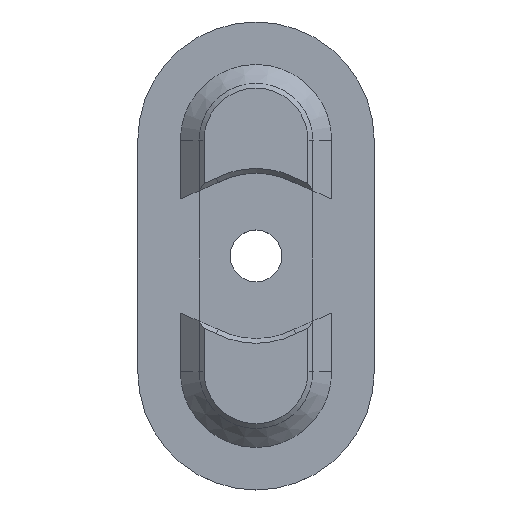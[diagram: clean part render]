
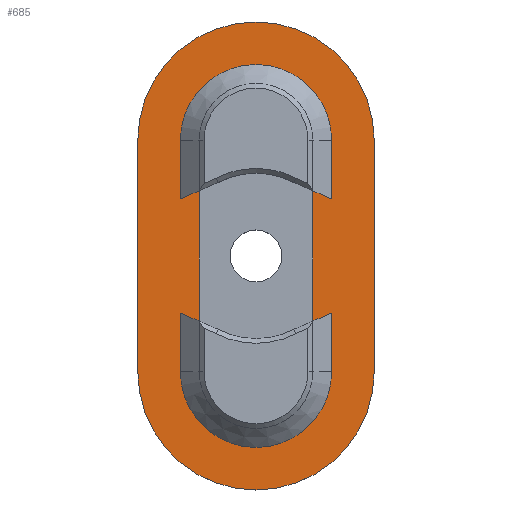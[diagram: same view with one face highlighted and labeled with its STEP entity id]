
A CAD part, top view. The second image highlights one B-rep face of the part: STEP entity #685.
In plain terms, the highlighted planar face has unit normal (0, 0, 1).
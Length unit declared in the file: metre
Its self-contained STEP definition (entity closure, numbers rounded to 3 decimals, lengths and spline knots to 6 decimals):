
#29=CIRCLE('',#741,0.005);
#30=CIRCLE('',#742,0.005);
#31=CIRCLE('',#743,0.0032);
#32=CIRCLE('',#744,0.0032);
#56=ORIENTED_EDGE('',*,*,#256,.T.);
#57=ORIENTED_EDGE('',*,*,#257,.T.);
#58=ORIENTED_EDGE('',*,*,#258,.F.);
#59=ORIENTED_EDGE('',*,*,#259,.T.);
#60=ORIENTED_EDGE('',*,*,#260,.T.);
#61=ORIENTED_EDGE('',*,*,#261,.T.);
#62=ORIENTED_EDGE('',*,*,#255,.F.);
#63=ORIENTED_EDGE('',*,*,#262,.T.);
#64=ORIENTED_EDGE('',*,*,#263,.T.);
#65=ORIENTED_EDGE('',*,*,#264,.T.);
#66=ORIENTED_EDGE('',*,*,#265,.T.);
#67=ORIENTED_EDGE('',*,*,#266,.F.);
#68=ORIENTED_EDGE('',*,*,#267,.T.);
#69=ORIENTED_EDGE('',*,*,#268,.T.);
#70=ORIENTED_EDGE('',*,*,#269,.T.);
#71=ORIENTED_EDGE('',*,*,#270,.T.);
#255=EDGE_CURVE('',#355,#350,#417,.T.);
#256=EDGE_CURVE('',#356,#357,#418,.T.);
#257=EDGE_CURVE('',#357,#358,#29,.T.);
#258=EDGE_CURVE('',#359,#358,#419,.T.);
#259=EDGE_CURVE('',#359,#356,#30,.T.);
#260=EDGE_CURVE('',#360,#361,#420,.T.);
#261=EDGE_CURVE('',#361,#350,#421,.T.);
#262=EDGE_CURVE('',#355,#362,#422,.T.);
#263=EDGE_CURVE('',#362,#363,#31,.F.);
#264=EDGE_CURVE('',#363,#364,#423,.T.);
#265=EDGE_CURVE('',#364,#365,#424,.T.);
#266=EDGE_CURVE('',#366,#365,#425,.T.);
#267=EDGE_CURVE('',#366,#367,#426,.T.);
#268=EDGE_CURVE('',#367,#368,#427,.T.);
#269=EDGE_CURVE('',#368,#369,#32,.F.);
#270=EDGE_CURVE('',#369,#360,#428,.T.);
#350=VERTEX_POINT('',#1007);
#355=VERTEX_POINT('',#1017);
#356=VERTEX_POINT('',#1021);
#357=VERTEX_POINT('',#1022);
#358=VERTEX_POINT('',#1024);
#359=VERTEX_POINT('',#1026);
#360=VERTEX_POINT('',#1029);
#361=VERTEX_POINT('',#1030);
#362=VERTEX_POINT('',#1033);
#363=VERTEX_POINT('',#1035);
#364=VERTEX_POINT('',#1037);
#365=VERTEX_POINT('',#1039);
#366=VERTEX_POINT('',#1041);
#367=VERTEX_POINT('',#1043);
#368=VERTEX_POINT('',#1045);
#369=VERTEX_POINT('',#1047);
#417=LINE('',#1018,#493);
#418=LINE('',#1020,#494);
#419=LINE('',#1025,#495);
#420=LINE('',#1028,#496);
#421=LINE('',#1031,#497);
#422=LINE('',#1032,#498);
#423=LINE('',#1036,#499);
#424=LINE('',#1038,#500);
#425=LINE('',#1040,#501);
#426=LINE('',#1042,#502);
#427=LINE('',#1044,#503);
#428=LINE('',#1048,#504);
#493=VECTOR('',#811,1.);
#494=VECTOR('',#814,1.);
#495=VECTOR('',#817,1.);
#496=VECTOR('',#820,1.);
#497=VECTOR('',#821,1.);
#498=VECTOR('',#822,1.);
#499=VECTOR('',#825,1.);
#500=VECTOR('',#826,1.);
#501=VECTOR('',#827,1.);
#502=VECTOR('',#828,1.);
#503=VECTOR('',#829,1.);
#504=VECTOR('',#832,1.);
#564=EDGE_LOOP('',(#56,#57,#58,#59));
#565=EDGE_LOOP('',(#60,#61,#62,#63,#64,#65,#66,#67,#68,#69,#70,#71));
#610=FACE_BOUND('',#564,.T.);
#611=FACE_BOUND('',#565,.T.);
#656=PLANE('',#740);
#685=ADVANCED_FACE('',(#610,#611),#656,.T.);
#740=AXIS2_PLACEMENT_3D('',#1019,#812,#813);
#741=AXIS2_PLACEMENT_3D('',#1023,#815,#816);
#742=AXIS2_PLACEMENT_3D('',#1027,#818,#819);
#743=AXIS2_PLACEMENT_3D('',#1034,#823,#824);
#744=AXIS2_PLACEMENT_3D('',#1046,#830,#831);
#811=DIRECTION('',(0.916,0.401,0.));
#812=DIRECTION('',(0.,0.,1.));
#813=DIRECTION('',(1.,0.,0.));
#814=DIRECTION('',(0.,-1.,0.));
#815=DIRECTION('',(0.,0.,1.));
#816=DIRECTION('',(1.,0.,0.));
#817=DIRECTION('',(0.,-1.,0.));
#818=DIRECTION('',(0.,0.,1.));
#819=DIRECTION('',(1.,0.,0.));
#820=DIRECTION('',(0.916,-0.401,0.));
#821=DIRECTION('',(0.,1.,0.));
#822=DIRECTION('',(0.,1.,0.));
#823=DIRECTION('',(0.,0.,1.));
#824=DIRECTION('',(1.,0.,0.));
#825=DIRECTION('',(0.,-1.,0.));
#826=DIRECTION('',(-0.916,0.401,0.));
#827=DIRECTION('',(0.,1.,0.));
#828=DIRECTION('',(0.916,0.401,0.));
#829=DIRECTION('',(0.,-1.,0.));
#830=DIRECTION('',(0.,0.,1.));
#831=DIRECTION('',(1.,0.,0.));
#832=DIRECTION('',(0.,1.,0.));
#1007=CARTESIAN_POINT('',(-0.0024,0.002763,0.));
#1017=CARTESIAN_POINT('',(-0.0032,0.002412,0.));
#1018=CARTESIAN_POINT('',(-0.002001,0.002937,0.));
#1019=CARTESIAN_POINT('',(0.,0.,0.));
#1020=CARTESIAN_POINT('',(-0.005,0.,0.));
#1021=CARTESIAN_POINT('',(-0.005,0.0049,0.));
#1022=CARTESIAN_POINT('',(-0.005,-0.0049,0.));
#1023=CARTESIAN_POINT('',(0.,-0.0049,0.));
#1024=CARTESIAN_POINT('',(0.005,-0.0049,0.));
#1025=CARTESIAN_POINT('',(0.005,0.,0.));
#1026=CARTESIAN_POINT('',(0.005,0.0049,0.));
#1027=CARTESIAN_POINT('',(0.,0.0049,0.));
#1028=CARTESIAN_POINT('',(-0.002001,-0.002937,0.));
#1029=CARTESIAN_POINT('',(-0.0032,-0.002412,0.));
#1030=CARTESIAN_POINT('',(-0.0024,-0.002763,0.));
#1031=CARTESIAN_POINT('',(-0.0024,0.,0.));
#1032=CARTESIAN_POINT('',(-0.0032,0.,0.));
#1033=CARTESIAN_POINT('',(-0.0032,0.0049,0.));
#1034=CARTESIAN_POINT('',(0.,0.0049,0.));
#1035=CARTESIAN_POINT('',(0.0032,0.0049,0.));
#1036=CARTESIAN_POINT('',(0.0032,0.002763,0.));
#1037=CARTESIAN_POINT('',(0.0032,0.002412,0.));
#1038=CARTESIAN_POINT('',(0.002001,0.002937,0.));
#1039=CARTESIAN_POINT('',(0.0024,0.002763,0.));
#1040=CARTESIAN_POINT('',(0.0024,0.,0.));
#1041=CARTESIAN_POINT('',(0.0024,-0.002763,0.));
#1042=CARTESIAN_POINT('',(0.002001,-0.002937,0.));
#1043=CARTESIAN_POINT('',(0.0032,-0.002412,0.));
#1044=CARTESIAN_POINT('',(0.0032,0.,0.));
#1045=CARTESIAN_POINT('',(0.0032,-0.0049,0.));
#1046=CARTESIAN_POINT('',(0.,-0.0049,0.));
#1047=CARTESIAN_POINT('',(-0.0032,-0.0049,0.));
#1048=CARTESIAN_POINT('',(-0.0032,-0.002763,0.));
